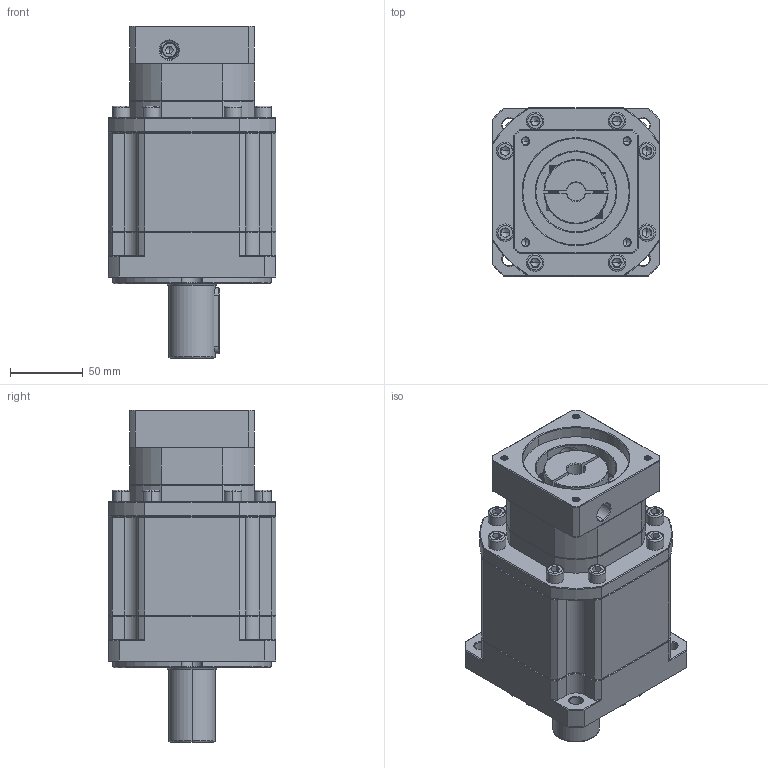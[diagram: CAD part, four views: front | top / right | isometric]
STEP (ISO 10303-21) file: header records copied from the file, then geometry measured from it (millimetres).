
FILE_DESCRIPTION (( 'STEP AP214' ), '1' );
FILE_NAME ('ZB115A-D32-L3-P2-12.7-73-69.6X69.6-M6.step', '2023-08-26T10:02:42', ( '' ), ( '' ), 'SwSTEP 2.0', 'SolidWorks 2016', '' );
FILE_SCHEMA (( 'AUTOMOTIVE_DESIGN' ));
Length unit declared in the file: millimetre
Products named in the file (1): ZB115A-D32-L3-P2-12.7-73-69.6X69.6-M6
Bounding box: 115 x 115 x 227.5 mm (x, y, z)
Volume: 1706048.8 mm3; surface area: 146760.3 mm2
Topology: 5 solids, 6 shells, 2410 faces, 6324 edges, 4016 vertices
Faces by surface type: plane 1186, bspline 427, cylinder 425, cone 357, torus 15
Entity records: 128487 total; most frequent: CARTESIAN_POINT 46220, ORIENTED_EDGE 12572, DIRECTION 9955, EDGE_CURVE 6286, LINE 4041, VECTOR 4041, VERTEX_POINT 4016, AXIS2_PLACEMENT_3D 2957
